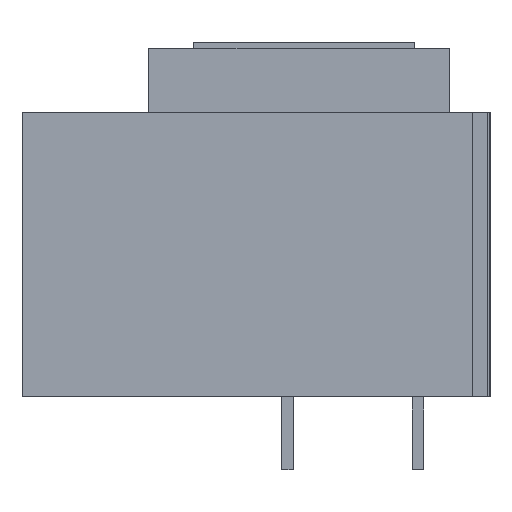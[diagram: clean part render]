
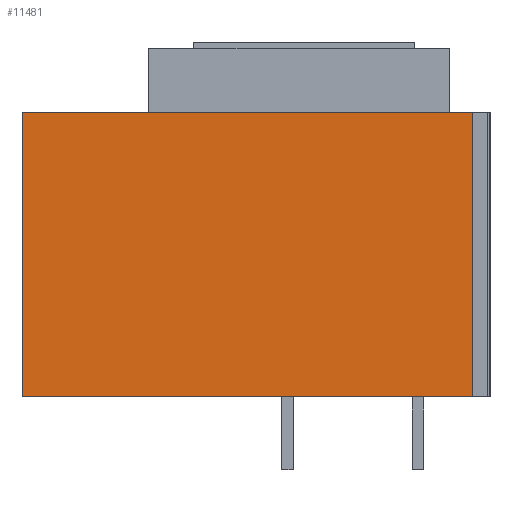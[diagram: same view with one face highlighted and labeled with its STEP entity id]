
A CAD part, left-side view. The second image highlights one B-rep face of the part: STEP entity #11481.
In plain terms, the highlighted planar face has unit normal (-1, 0, 0).
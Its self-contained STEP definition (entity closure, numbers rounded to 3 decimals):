
#762 = VECTOR ( 'NONE', #34126, 1000. ) ;
#4095 = VECTOR ( 'NONE', #27342, 1000. ) ;
#7965 = VERTEX_POINT ( 'NONE', #14782 ) ;
#8436 = LINE ( 'NONE', #30304, #4095 ) ;
#8969 = VECTOR ( 'NONE', #10827, 1000. ) ;
#10718 = DIRECTION ( 'NONE',  ( -1., 0., 0. ) ) ;
#10827 = DIRECTION ( 'NONE',  ( 0., 0., 1. ) ) ;
#11481 = ADVANCED_FACE ( 'NONE', ( #16130 ), #17173, .T. ) ;
#11555 = CARTESIAN_POINT ( 'NONE',  ( -254., 402., 0. ) ) ;
#14760 = LINE ( 'NONE', #24821, #762 ) ;
#14782 = CARTESIAN_POINT ( 'NONE',  ( -254., 15., 0. ) ) ;
#14840 = VECTOR ( 'NONE', #33710, 1000. ) ;
#14890 = ORIENTED_EDGE ( 'NONE', *, *, #27937, .F. ) ;
#16130 = FACE_OUTER_BOUND ( 'NONE', #19204, .T. ) ;
#16472 = VERTEX_POINT ( 'NONE', #11555 ) ;
#17173 = PLANE ( 'NONE',  #28036 ) ;
#18070 = CARTESIAN_POINT ( 'NONE',  ( -254., 0., -244.5 ) ) ;
#18099 = ORIENTED_EDGE ( 'NONE', *, *, #19110, .T. ) ;
#18177 = LINE ( 'NONE', #18070, #14840 ) ;
#19110 = EDGE_CURVE ( 'NONE', #23353, #24109, #18177, .T. ) ;
#19122 = LINE ( 'NONE', #20246, #8969 ) ;
#19204 = EDGE_LOOP ( 'NONE', ( #14890, #37641, #18099, #24897 ) ) ;
#20246 = CARTESIAN_POINT ( 'NONE',  ( -254., 402., -244.5 ) ) ;
#23116 = DIRECTION ( 'NONE',  ( 0., -1., 0. ) ) ;
#23353 = VERTEX_POINT ( 'NONE', #27673 ) ;
#24109 = VERTEX_POINT ( 'NONE', #24146 ) ;
#24146 = CARTESIAN_POINT ( 'NONE',  ( -254., 15., -244.5 ) ) ;
#24821 = CARTESIAN_POINT ( 'NONE',  ( -254., 0., 0. ) ) ;
#24897 = ORIENTED_EDGE ( 'NONE', *, *, #29085, .T. ) ;
#27342 = DIRECTION ( 'NONE',  ( 0., 0., 1. ) ) ;
#27600 = EDGE_CURVE ( 'NONE', #23353, #16472, #19122, .T. ) ;
#27673 = CARTESIAN_POINT ( 'NONE',  ( -254., 402., -244.5 ) ) ;
#27937 = EDGE_CURVE ( 'NONE', #16472, #7965, #14760, .T. ) ;
#28036 = AXIS2_PLACEMENT_3D ( 'NONE', #29166, #10718, #23116 ) ;
#29085 = EDGE_CURVE ( 'NONE', #24109, #7965, #8436, .T. ) ;
#29166 = CARTESIAN_POINT ( 'NONE',  ( -254., 0., -244.5 ) ) ;
#30304 = CARTESIAN_POINT ( 'NONE',  ( -254., 15., -244.5 ) ) ;
#33710 = DIRECTION ( 'NONE',  ( 0., -1., 0. ) ) ;
#34126 = DIRECTION ( 'NONE',  ( 0., -1., 0. ) ) ;
#37641 = ORIENTED_EDGE ( 'NONE', *, *, #27600, .F. ) ;
